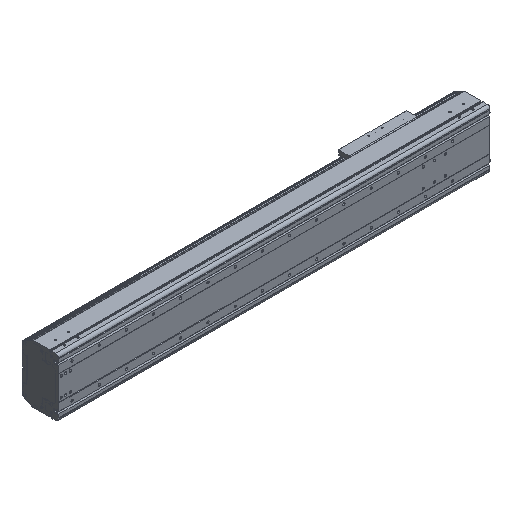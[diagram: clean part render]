
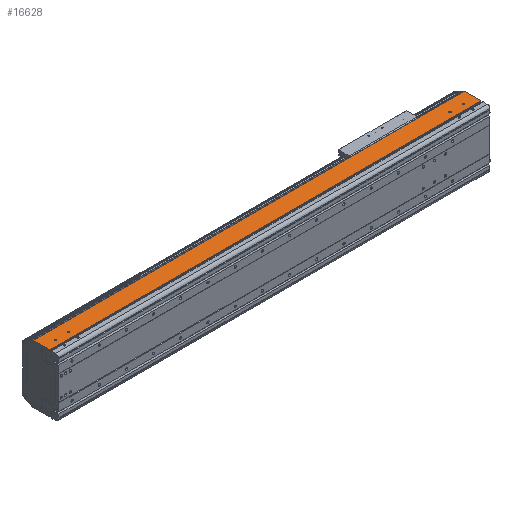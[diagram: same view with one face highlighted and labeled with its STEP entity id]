
A CAD part, isometric view. The second image highlights one B-rep face of the part: STEP entity #16628.
In plain terms, the highlighted planar face has unit normal (0, 0, 1).
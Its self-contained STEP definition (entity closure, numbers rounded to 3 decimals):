
#1203=DIRECTION('',(1.,0.,0.));
#1204=VECTOR('',#1203,2.);
#1205=CARTESIAN_POINT('',(0.,34.65,107.));
#1206=LINE('',#1205,#1204);
#1211=CARTESIAN_POINT('',(-42.,54.,107.));
#1212=DIRECTION('',(0.,0.,-1.));
#1213=DIRECTION('',(1.,0.,0.));
#1214=AXIS2_PLACEMENT_3D('',#1211,#1212,#1213);
#1216=CARTESIAN_POINT('',(-42.,54.,107.));
#1217=DIRECTION('',(0.,0.,-1.));
#1218=DIRECTION('',(-1.,0.,0.));
#1219=AXIS2_PLACEMENT_3D('',#1216,#1217,#1218);
#1221=CARTESIAN_POINT('',(-92.,54.,107.));
#1222=DIRECTION('',(0.,0.,-1.));
#1223=DIRECTION('',(1.,0.,0.));
#1224=AXIS2_PLACEMENT_3D('',#1221,#1222,#1223);
#1226=CARTESIAN_POINT('',(-92.,54.,107.));
#1227=DIRECTION('',(0.,0.,-1.));
#1228=DIRECTION('',(-1.,0.,0.));
#1229=AXIS2_PLACEMENT_3D('',#1226,#1227,#1228);
#1231=CARTESIAN_POINT('',(-1544.,54.,107.));
#1232=DIRECTION('',(0.,0.,-1.));
#1233=DIRECTION('',(1.,0.,0.));
#1234=AXIS2_PLACEMENT_3D('',#1231,#1232,#1233);
#1236=CARTESIAN_POINT('',(-1544.,54.,107.));
#1237=DIRECTION('',(0.,0.,-1.));
#1238=DIRECTION('',(-1.,0.,0.));
#1239=AXIS2_PLACEMENT_3D('',#1236,#1237,#1238);
#1241=CARTESIAN_POINT('',(-1494.,54.,107.));
#1242=DIRECTION('',(0.,0.,-1.));
#1243=DIRECTION('',(1.,0.,0.));
#1244=AXIS2_PLACEMENT_3D('',#1241,#1242,#1243);
#1246=CARTESIAN_POINT('',(-1494.,54.,107.));
#1247=DIRECTION('',(0.,0.,-1.));
#1248=DIRECTION('',(-1.,0.,0.));
#1249=AXIS2_PLACEMENT_3D('',#1246,#1247,#1248);
#1251=DIRECTION('',(0.,-1.,0.));
#1252=VECTOR('',#1251,2.55);
#1253=CARTESIAN_POINT('',(-1584.,34.65,107.));
#1254=LINE('',#1253,#1252);
#1255=DIRECTION('',(0.,-1.,0.));
#1256=VECTOR('',#1255,58.85);
#1257=CARTESIAN_POINT('',(-1586.,93.5,107.));
#1258=LINE('',#1257,#1256);
#1259=DIRECTION('',(0.,1.,0.));
#1260=VECTOR('',#1259,58.85);
#1261=CARTESIAN_POINT('',(2.,34.65,107.));
#1262=LINE('',#1261,#1260);
#1263=DIRECTION('',(0.,1.,0.));
#1264=VECTOR('',#1263,2.55);
#1265=CARTESIAN_POINT('',(0.,32.1,107.));
#1266=LINE('',#1265,#1264);
#1375=DIRECTION('',(1.,0.,0.));
#1376=VECTOR('',#1375,2.);
#1377=CARTESIAN_POINT('',(-1586.,34.65,107.));
#1378=LINE('',#1377,#1376);
#1387=DIRECTION('',(-1.,0.,0.));
#1388=VECTOR('',#1387,1588.);
#1389=CARTESIAN_POINT('',(2.,93.5,107.));
#1390=LINE('',#1389,#1388);
#10993=DIRECTION('',(1.,0.,0.));
#10994=VECTOR('',#10993,1584.);
#10995=CARTESIAN_POINT('',(-1584.,32.1,107.));
#10996=LINE('',#10995,#10994);
#12079=CARTESIAN_POINT('',(-1586.,34.65,107.));
#12080=VERTEX_POINT('',#12079);
#12081=CARTESIAN_POINT('',(-1586.,93.5,107.));
#12082=VERTEX_POINT('',#12081);
#12303=CARTESIAN_POINT('',(-1584.,32.1,107.));
#12304=VERTEX_POINT('',#12303);
#12375=CARTESIAN_POINT('',(0.,32.1,107.));
#12376=VERTEX_POINT('',#12375);
#12817=CARTESIAN_POINT('',(-39.5,54.,107.));
#12818=CARTESIAN_POINT('',(-44.5,54.,107.));
#12819=VERTEX_POINT('',#12817);
#12820=VERTEX_POINT('',#12818);
#12821=CARTESIAN_POINT('',(-89.5,54.,107.));
#12822=CARTESIAN_POINT('',(-94.5,54.,107.));
#12823=VERTEX_POINT('',#12821);
#12824=VERTEX_POINT('',#12822);
#12825=CARTESIAN_POINT('',(-1541.5,54.,107.));
#12826=CARTESIAN_POINT('',(-1546.5,54.,107.));
#12827=VERTEX_POINT('',#12825);
#12828=VERTEX_POINT('',#12826);
#12829=CARTESIAN_POINT('',(-1491.5,54.,107.));
#12830=CARTESIAN_POINT('',(-1496.5,54.,107.));
#12831=VERTEX_POINT('',#12829);
#12832=VERTEX_POINT('',#12830);
#13976=CARTESIAN_POINT('',(2.,34.65,107.));
#13977=VERTEX_POINT('',#13976);
#13978=CARTESIAN_POINT('',(2.,93.5,107.));
#13979=VERTEX_POINT('',#13978);
#14200=CARTESIAN_POINT('',(0.,34.65,107.));
#14201=VERTEX_POINT('',#14200);
#14512=CARTESIAN_POINT('',(-1584.,34.65,107.));
#14513=VERTEX_POINT('',#14512);
#16586=CARTESIAN_POINT('',(-792.,62.8,107.));
#16587=DIRECTION('',(0.,0.,1.));
#16588=DIRECTION('',(0.,-1.,0.));
#16589=AXIS2_PLACEMENT_3D('',#16586,#16587,#16588);
#16590=PLANE('',#16589);
#16591=ORIENTED_EDGE('',*,*,#15261,.F.);
#16593=ORIENTED_EDGE('',*,*,#16592,.F.);
#16594=ORIENTED_EDGE('',*,*,#15633,.F.);
#16596=ORIENTED_EDGE('',*,*,#16595,.F.);
#16597=ORIENTED_EDGE('',*,*,#16382,.F.);
#16598=ORIENTED_EDGE('',*,*,#16579,.F.);
#16599=ORIENTED_EDGE('',*,*,#15757,.F.);
#16601=ORIENTED_EDGE('',*,*,#16600,.F.);
#16602=EDGE_LOOP('',(#16591,#16593,#16594,#16596,#16597,#16598,#16599,#16601));
#16603=FACE_OUTER_BOUND('',#16602,.F.);
#16605=ORIENTED_EDGE('',*,*,#16604,.F.);
#16607=ORIENTED_EDGE('',*,*,#16606,.F.);
#16608=EDGE_LOOP('',(#16605,#16607));
#16609=FACE_BOUND('',#16608,.F.);
#16611=ORIENTED_EDGE('',*,*,#16610,.F.);
#16613=ORIENTED_EDGE('',*,*,#16612,.F.);
#16614=EDGE_LOOP('',(#16611,#16613));
#16615=FACE_BOUND('',#16614,.F.);
#16617=ORIENTED_EDGE('',*,*,#16616,.F.);
#16619=ORIENTED_EDGE('',*,*,#16618,.F.);
#16620=EDGE_LOOP('',(#16617,#16619));
#16621=FACE_BOUND('',#16620,.F.);
#16623=ORIENTED_EDGE('',*,*,#16622,.F.);
#16625=ORIENTED_EDGE('',*,*,#16624,.F.);
#16626=EDGE_LOOP('',(#16623,#16625));
#16627=FACE_BOUND('',#16626,.F.);
#16628=ADVANCED_FACE('',(#16603,#16609,#16615,#16621,#16627),#16590,.T.);
#1215=CIRCLE('',#1214,2.5);
#1220=CIRCLE('',#1219,2.5);
#1225=CIRCLE('',#1224,2.5);
#1230=CIRCLE('',#1229,2.5);
#1235=CIRCLE('',#1234,2.5);
#1240=CIRCLE('',#1239,2.5);
#1245=CIRCLE('',#1244,2.5);
#1250=CIRCLE('',#1249,2.5);
#15261=EDGE_CURVE('',#14513,#12304,#1254,.T.);
#15633=EDGE_CURVE('',#12082,#12080,#1258,.T.);
#15757=EDGE_CURVE('',#12376,#14201,#1266,.T.);
#16382=EDGE_CURVE('',#13977,#13979,#1262,.T.);
#16579=EDGE_CURVE('',#14201,#13977,#1206,.T.);
#16592=EDGE_CURVE('',#12080,#14513,#1378,.T.);
#16595=EDGE_CURVE('',#13979,#12082,#1390,.T.);
#16600=EDGE_CURVE('',#12304,#12376,#10996,.T.);
#16604=EDGE_CURVE('',#12823,#12824,#1225,.T.);
#16606=EDGE_CURVE('',#12824,#12823,#1230,.T.);
#16610=EDGE_CURVE('',#12827,#12828,#1235,.T.);
#16612=EDGE_CURVE('',#12828,#12827,#1240,.T.);
#16616=EDGE_CURVE('',#12831,#12832,#1245,.T.);
#16618=EDGE_CURVE('',#12832,#12831,#1250,.T.);
#16622=EDGE_CURVE('',#12819,#12820,#1215,.T.);
#16624=EDGE_CURVE('',#12820,#12819,#1220,.T.);
